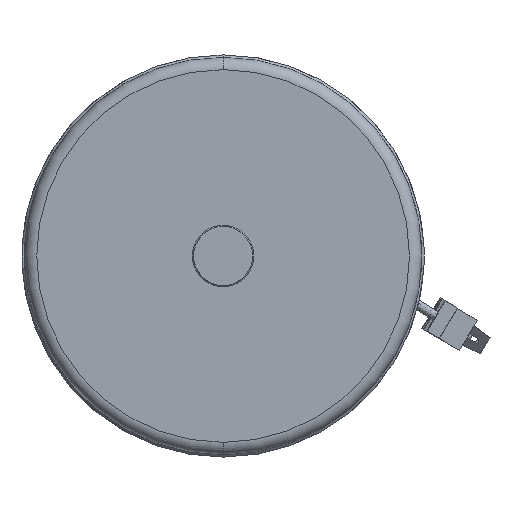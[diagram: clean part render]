
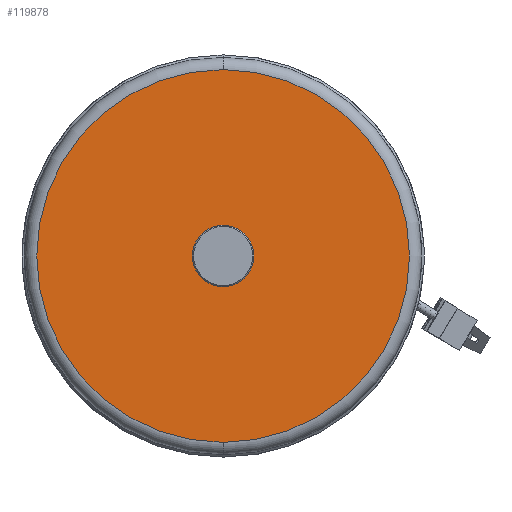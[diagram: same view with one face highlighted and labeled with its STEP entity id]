
A CAD part, front view. The second image highlights one B-rep face of the part: STEP entity #119878.
In plain terms, the highlighted planar face has unit normal (0, -1, 0).
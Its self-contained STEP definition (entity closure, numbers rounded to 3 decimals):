
#8124 = CARTESIAN_POINT ( 'NONE',  ( 0., -5.1, 0. ) ) ;
#8403 = DIRECTION ( 'NONE',  ( 1., 0., 0. ) ) ;
#8437 = DIRECTION ( 'NONE',  ( 0., 0., 1. ) ) ;
#10098 = DIRECTION ( 'NONE',  ( 0., 0., 1. ) ) ;
#20006 = PLANE ( 'NONE',  #23265 ) ;
#20965 = ORIENTED_EDGE ( 'NONE', *, *, #46494, .F. ) ;
#23265 = AXIS2_PLACEMENT_3D ( 'NONE', #117924, #63994, #10098 ) ;
#25312 = CARTESIAN_POINT ( 'NONE',  ( 0., -5.1, -30.35 ) ) ;
#27658 = CARTESIAN_POINT ( 'NONE',  ( 0., -5.1, 30.35 ) ) ;
#30671 = FACE_BOUND ( 'NONE', #70988, .T. ) ;
#31347 = AXIS2_PLACEMENT_3D ( 'NONE', #125510, #60930, #8437 ) ;
#34439 = AXIS2_PLACEMENT_3D ( 'NONE', #41042, #140391, #8403 ) ;
#41042 = CARTESIAN_POINT ( 'NONE',  ( 0., -5.1, 0. ) ) ;
#46494 = EDGE_CURVE ( 'NONE', #135775, #120175, #63031, .T. ) ;
#47666 = AXIS2_PLACEMENT_3D ( 'NONE', #115960, #51414, #94664 ) ;
#48412 = EDGE_CURVE ( 'NONE', #62630, #57204, #131287, .T. ) ;
#51414 = DIRECTION ( 'NONE',  ( 0., 1., 0. ) ) ;
#53373 = FACE_OUTER_BOUND ( 'NONE', #65738, .T. ) ;
#57204 = VERTEX_POINT ( 'NONE', #128046 ) ;
#57307 = EDGE_CURVE ( 'NONE', #120175, #135775, #99822, .T. ) ;
#60930 = DIRECTION ( 'NONE',  ( 0., 1., 0. ) ) ;
#62630 = VERTEX_POINT ( 'NONE', #127070 ) ;
#62723 = DIRECTION ( 'NONE',  ( 1., 0., 0. ) ) ;
#63031 = CIRCLE ( 'NONE', #31347, 30.35 ) ;
#63994 = DIRECTION ( 'NONE',  ( 0., 1., 0. ) ) ;
#65738 = EDGE_LOOP ( 'NONE', ( #108714, #20965 ) ) ;
#70988 = EDGE_LOOP ( 'NONE', ( #92151, #99766 ) ) ;
#86513 = CIRCLE ( 'NONE', #34439, 4.8 ) ;
#92151 = ORIENTED_EDGE ( 'NONE', *, *, #48412, .T. ) ;
#94664 = DIRECTION ( 'NONE',  ( 0., 0., 1. ) ) ;
#99766 = ORIENTED_EDGE ( 'NONE', *, *, #100343, .T. ) ;
#99822 = CIRCLE ( 'NONE', #47666, 30.35 ) ;
#100343 = EDGE_CURVE ( 'NONE', #57204, #62630, #86513, .T. ) ;
#104594 = DIRECTION ( 'NONE',  ( 0., 1., 0. ) ) ;
#108714 = ORIENTED_EDGE ( 'NONE', *, *, #57307, .F. ) ;
#115960 = CARTESIAN_POINT ( 'NONE',  ( 0., -5.1, 0. ) ) ;
#117924 = CARTESIAN_POINT ( 'NONE',  ( 30.35, -5.1, 0. ) ) ;
#119878 = ADVANCED_FACE ( 'NONE', ( #30671, #53373 ), #20006, .F. ) ;
#120175 = VERTEX_POINT ( 'NONE', #27658 ) ;
#125510 = CARTESIAN_POINT ( 'NONE',  ( 0., -5.1, 0. ) ) ;
#127070 = CARTESIAN_POINT ( 'NONE',  ( 4.8, -5.1, 0. ) ) ;
#128046 = CARTESIAN_POINT ( 'NONE',  ( -4.8, -5.1, 0. ) ) ;
#131287 = CIRCLE ( 'NONE', #140373, 4.8 ) ;
#135775 = VERTEX_POINT ( 'NONE', #25312 ) ;
#140373 = AXIS2_PLACEMENT_3D ( 'NONE', #8124, #104594, #62723 ) ;
#140391 = DIRECTION ( 'NONE',  ( 0., 1., 0. ) ) ;
